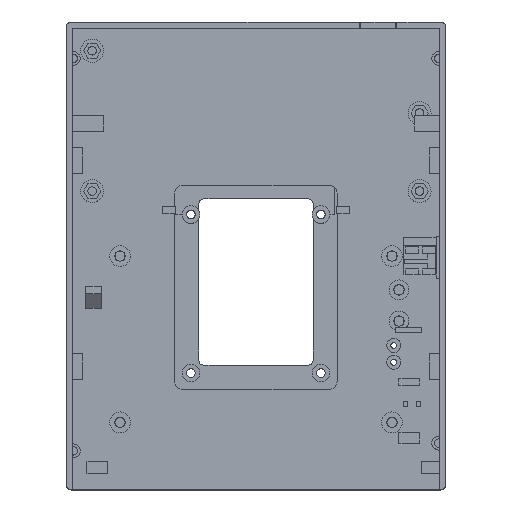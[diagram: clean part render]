
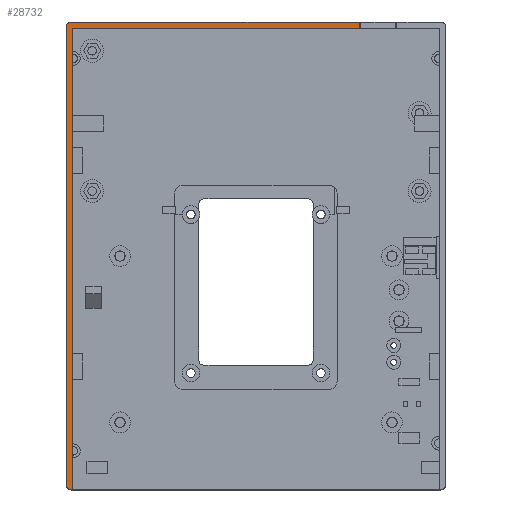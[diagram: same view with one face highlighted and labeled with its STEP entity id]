
A CAD part, top view. The second image highlights one B-rep face of the part: STEP entity #28732.
In plain terms, the highlighted planar face has unit normal (0, 0, 1).
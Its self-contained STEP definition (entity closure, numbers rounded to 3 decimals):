
#32 = PLANE('',#33);
#33 = AXIS2_PLACEMENT_3D('',#34,#35,#36);
#34 = CARTESIAN_POINT('',(2.,0.,0.));
#35 = DIRECTION('',(0.,1.,0.));
#36 = DIRECTION('',(1.,0.,0.));
#57 = VERTEX_POINT('',#58);
#58 = CARTESIAN_POINT('',(2.,0.,38.5));
#72 = CYLINDRICAL_SURFACE('',#73,2.);
#73 = AXIS2_PLACEMENT_3D('',#74,#75,#76);
#74 = CARTESIAN_POINT('',(2.,2.,0.));
#75 = DIRECTION('',(-0.,-0.,-1.));
#76 = DIRECTION('',(-1.,0.,0.));
#84 = EDGE_CURVE('',#57,#85,#87,.T.);
#85 = VERTEX_POINT('',#86);
#86 = CARTESIAN_POINT('',(2.4,0.,38.5));
#87 = SURFACE_CURVE('',#88,(#92,#99),.PCURVE_S1.);
#88 = LINE('',#89,#90);
#89 = CARTESIAN_POINT('',(2.,0.,38.5));
#90 = VECTOR('',#91,1.);
#91 = DIRECTION('',(1.,0.,0.));
#92 = PCURVE('',#32,#93);
#93 = DEFINITIONAL_REPRESENTATION('',(#94),#98);
#94 = LINE('',#95,#96);
#95 = CARTESIAN_POINT('',(0.,-38.5));
#96 = VECTOR('',#97,1.);
#97 = DIRECTION('',(1.,0.));
#98 = ( GEOMETRIC_REPRESENTATION_CONTEXT(2) 
PARAMETRIC_REPRESENTATION_CONTEXT() REPRESENTATION_CONTEXT('2D SPACE',''
  ) );
#99 = PCURVE('',#100,#105);
#100 = PLANE('',#101);
#101 = AXIS2_PLACEMENT_3D('',#102,#103,#104);
#102 = CARTESIAN_POINT('',(73.025,90.,38.5));
#103 = DIRECTION('',(0.,0.,1.));
#104 = DIRECTION('',(1.,0.,-0.));
#105 = DEFINITIONAL_REPRESENTATION('',(#106),#110);
#106 = LINE('',#107,#108);
#107 = CARTESIAN_POINT('',(-71.025,-90.));
#108 = VECTOR('',#109,1.);
#109 = DIRECTION('',(1.,0.));
#110 = ( GEOMETRIC_REPRESENTATION_CONTEXT(2) 
PARAMETRIC_REPRESENTATION_CONTEXT() REPRESENTATION_CONTEXT('2D SPACE',''
  ) );
#128 = PLANE('',#129);
#129 = AXIS2_PLACEMENT_3D('',#130,#131,#132);
#130 = CARTESIAN_POINT('',(2.4,-1.,2.4));
#131 = DIRECTION('',(1.,0.,0.));
#132 = DIRECTION('',(0.,0.,1.));
#619 = PLANE('',#620);
#620 = AXIS2_PLACEMENT_3D('',#621,#622,#623);
#621 = CARTESIAN_POINT('',(144.05,180.,0.));
#622 = DIRECTION('',(0.,-1.,0.));
#623 = DIRECTION('',(-1.,0.,0.));
#823 = VERTEX_POINT('',#824);
#824 = CARTESIAN_POINT('',(112.8,180.,38.5));
#837 = PLANE('',#838);
#838 = AXIS2_PLACEMENT_3D('',#839,#840,#841);
#839 = CARTESIAN_POINT('',(112.8,177.,23.8));
#840 = DIRECTION('',(1.,0.,0.));
#841 = DIRECTION('',(0.,0.,1.));
#848 = EDGE_CURVE('',#823,#849,#851,.T.);
#849 = VERTEX_POINT('',#850);
#850 = CARTESIAN_POINT('',(2.,180.,38.5));
#851 = SURFACE_CURVE('',#852,(#856,#863),.PCURVE_S1.);
#852 = LINE('',#853,#854);
#853 = CARTESIAN_POINT('',(144.05,180.,38.5));
#854 = VECTOR('',#855,1.);
#855 = DIRECTION('',(-1.,0.,0.));
#856 = PCURVE('',#619,#857);
#857 = DEFINITIONAL_REPRESENTATION('',(#858),#862);
#858 = LINE('',#859,#860);
#859 = CARTESIAN_POINT('',(0.,-38.5));
#860 = VECTOR('',#861,1.);
#861 = DIRECTION('',(1.,0.));
#862 = ( GEOMETRIC_REPRESENTATION_CONTEXT(2) 
PARAMETRIC_REPRESENTATION_CONTEXT() REPRESENTATION_CONTEXT('2D SPACE',''
  ) );
#863 = PCURVE('',#100,#864);
#864 = DEFINITIONAL_REPRESENTATION('',(#865),#869);
#865 = LINE('',#866,#867);
#866 = CARTESIAN_POINT('',(71.025,90.));
#867 = VECTOR('',#868,1.);
#868 = DIRECTION('',(-1.,0.));
#869 = ( GEOMETRIC_REPRESENTATION_CONTEXT(2) 
PARAMETRIC_REPRESENTATION_CONTEXT() REPRESENTATION_CONTEXT('2D SPACE',''
  ) );
#885 = CYLINDRICAL_SURFACE('',#886,2.);
#886 = AXIS2_PLACEMENT_3D('',#887,#888,#889);
#887 = CARTESIAN_POINT('',(2.,178.,0.));
#888 = DIRECTION('',(-0.,-0.,-1.));
#889 = DIRECTION('',(0.,1.,-0.));
#1237 = PLANE('',#1238);
#1238 = AXIS2_PLACEMENT_3D('',#1239,#1240,#1241);
#1239 = CARTESIAN_POINT('',(2.4,177.6,2.4));
#1240 = DIRECTION('',(0.,1.,0.));
#1241 = DIRECTION('',(0.,-0.,1.));
#1328 = VERTEX_POINT('',#1329);
#1329 = CARTESIAN_POINT('',(2.4,177.6,38.5));
#1350 = EDGE_CURVE('',#1351,#1328,#1353,.T.);
#1351 = VERTEX_POINT('',#1352);
#1352 = CARTESIAN_POINT('',(112.8,177.6,38.5));
#1353 = SURFACE_CURVE('',#1354,(#1358,#1365),.PCURVE_S1.);
#1354 = LINE('',#1355,#1356);
#1355 = CARTESIAN_POINT('',(37.713,177.6,38.5));
#1356 = VECTOR('',#1357,1.);
#1357 = DIRECTION('',(-1.,0.,0.));
#1358 = PCURVE('',#1237,#1359);
#1359 = DEFINITIONAL_REPRESENTATION('',(#1360),#1364);
#1360 = LINE('',#1361,#1362);
#1361 = CARTESIAN_POINT('',(36.1,35.313));
#1362 = VECTOR('',#1363,1.);
#1363 = DIRECTION('',(0.,-1.));
#1364 = ( GEOMETRIC_REPRESENTATION_CONTEXT(2) 
PARAMETRIC_REPRESENTATION_CONTEXT() REPRESENTATION_CONTEXT('2D SPACE',''
  ) );
#1365 = PCURVE('',#100,#1366);
#1366 = DEFINITIONAL_REPRESENTATION('',(#1367),#1371);
#1367 = LINE('',#1368,#1369);
#1368 = CARTESIAN_POINT('',(-35.313,87.6));
#1369 = VECTOR('',#1370,1.);
#1370 = DIRECTION('',(-1.,0.));
#1371 = ( GEOMETRIC_REPRESENTATION_CONTEXT(2) 
PARAMETRIC_REPRESENTATION_CONTEXT() REPRESENTATION_CONTEXT('2D SPACE',''
  ) );
#10325 = EDGE_CURVE('',#1351,#823,#10326,.T.);
#10326 = SURFACE_CURVE('',#10327,(#10331,#10337),.PCURVE_S1.);
#10327 = LINE('',#10328,#10329);
#10328 = CARTESIAN_POINT('',(112.8,133.5,38.5));
#10329 = VECTOR('',#10330,1.);
#10330 = DIRECTION('',(0.,1.,0.));
#10331 = PCURVE('',#837,#10332);
#10332 = DEFINITIONAL_REPRESENTATION('',(#10333),#10336);
#10333 = B_SPLINE_CURVE_WITH_KNOTS('',1,(#10334,#10335),.UNSPECIFIED.,
  .F.,.F.,(2,2),(43.5,46.5),.PIECEWISE_BEZIER_KNOTS.);
#10334 = CARTESIAN_POINT('',(14.7,0.));
#10335 = CARTESIAN_POINT('',(14.7,-3.));
#10336 = ( GEOMETRIC_REPRESENTATION_CONTEXT(2) 
PARAMETRIC_REPRESENTATION_CONTEXT() REPRESENTATION_CONTEXT('2D SPACE',''
  ) );
#10337 = PCURVE('',#100,#10338);
#10338 = DEFINITIONAL_REPRESENTATION('',(#10339),#10342);
#10339 = B_SPLINE_CURVE_WITH_KNOTS('',1,(#10340,#10341),.UNSPECIFIED.,
  .F.,.F.,(2,2),(43.5,46.5),.PIECEWISE_BEZIER_KNOTS.);
#10340 = CARTESIAN_POINT('',(39.775,87.));
#10341 = CARTESIAN_POINT('',(39.775,90.));
#10342 = ( GEOMETRIC_REPRESENTATION_CONTEXT(2) 
PARAMETRIC_REPRESENTATION_CONTEXT() REPRESENTATION_CONTEXT('2D SPACE',''
  ) );
#10372 = VERTEX_POINT('',#10373);
#10373 = CARTESIAN_POINT('',(0.,178.,38.5));
#10387 = PLANE('',#10388);
#10388 = AXIS2_PLACEMENT_3D('',#10389,#10390,#10391);
#10389 = CARTESIAN_POINT('',(0.,178.,0.));
#10390 = DIRECTION('',(1.,0.,0.));
#10391 = DIRECTION('',(0.,-1.,0.));
#10399 = EDGE_CURVE('',#849,#10372,#10400,.T.);
#10400 = SURFACE_CURVE('',#10401,(#10406,#10413),.PCURVE_S1.);
#10401 = CIRCLE('',#10402,2.);
#10402 = AXIS2_PLACEMENT_3D('',#10403,#10404,#10405);
#10403 = CARTESIAN_POINT('',(2.,178.,38.5));
#10404 = DIRECTION('',(0.,0.,1.));
#10405 = DIRECTION('',(0.,1.,-0.));
#10406 = PCURVE('',#885,#10407);
#10407 = DEFINITIONAL_REPRESENTATION('',(#10408),#10412);
#10408 = LINE('',#10409,#10410);
#10409 = CARTESIAN_POINT('',(6.283,-38.5));
#10410 = VECTOR('',#10411,1.);
#10411 = DIRECTION('',(-1.,0.));
#10412 = ( GEOMETRIC_REPRESENTATION_CONTEXT(2) 
PARAMETRIC_REPRESENTATION_CONTEXT() REPRESENTATION_CONTEXT('2D SPACE',''
  ) );
#10413 = PCURVE('',#100,#10414);
#10414 = DEFINITIONAL_REPRESENTATION('',(#10415),#10419);
#10415 = CIRCLE('',#10416,2.);
#10416 = AXIS2_PLACEMENT_2D('',#10417,#10418);
#10417 = CARTESIAN_POINT('',(-71.025,88.));
#10418 = DIRECTION('',(0.,1.));
#10419 = ( GEOMETRIC_REPRESENTATION_CONTEXT(2) 
PARAMETRIC_REPRESENTATION_CONTEXT() REPRESENTATION_CONTEXT('2D SPACE',''
  ) );
#10426 = EDGE_CURVE('',#10372,#10427,#10429,.T.);
#10427 = VERTEX_POINT('',#10428);
#10428 = CARTESIAN_POINT('',(0.,2.,38.5));
#10429 = SURFACE_CURVE('',#10430,(#10434,#10441),.PCURVE_S1.);
#10430 = LINE('',#10431,#10432);
#10431 = CARTESIAN_POINT('',(0.,178.,38.5));
#10432 = VECTOR('',#10433,1.);
#10433 = DIRECTION('',(0.,-1.,0.));
#10434 = PCURVE('',#10387,#10435);
#10435 = DEFINITIONAL_REPRESENTATION('',(#10436),#10440);
#10436 = LINE('',#10437,#10438);
#10437 = CARTESIAN_POINT('',(0.,-38.5));
#10438 = VECTOR('',#10439,1.);
#10439 = DIRECTION('',(1.,0.));
#10440 = ( GEOMETRIC_REPRESENTATION_CONTEXT(2) 
PARAMETRIC_REPRESENTATION_CONTEXT() REPRESENTATION_CONTEXT('2D SPACE',''
  ) );
#10441 = PCURVE('',#100,#10442);
#10442 = DEFINITIONAL_REPRESENTATION('',(#10443),#10447);
#10443 = LINE('',#10444,#10445);
#10444 = CARTESIAN_POINT('',(-73.025,88.));
#10445 = VECTOR('',#10446,1.);
#10446 = DIRECTION('',(0.,-1.));
#10447 = ( GEOMETRIC_REPRESENTATION_CONTEXT(2) 
PARAMETRIC_REPRESENTATION_CONTEXT() REPRESENTATION_CONTEXT('2D SPACE',''
  ) );
#26733 = EDGE_CURVE('',#85,#1328,#26734,.T.);
#26734 = SURFACE_CURVE('',#26735,(#26739,#26746),.PCURVE_S1.);
#26735 = LINE('',#26736,#26737);
#26736 = CARTESIAN_POINT('',(2.4,44.5,38.5));
#26737 = VECTOR('',#26738,1.);
#26738 = DIRECTION('',(0.,1.,0.));
#26739 = PCURVE('',#128,#26740);
#26740 = DEFINITIONAL_REPRESENTATION('',(#26741),#26745);
#26741 = LINE('',#26742,#26743);
#26742 = CARTESIAN_POINT('',(36.1,-45.5));
#26743 = VECTOR('',#26744,1.);
#26744 = DIRECTION('',(0.,-1.));
#26745 = ( GEOMETRIC_REPRESENTATION_CONTEXT(2) 
PARAMETRIC_REPRESENTATION_CONTEXT() REPRESENTATION_CONTEXT('2D SPACE',''
  ) );
#26746 = PCURVE('',#100,#26747);
#26747 = DEFINITIONAL_REPRESENTATION('',(#26748),#26752);
#26748 = LINE('',#26749,#26750);
#26749 = CARTESIAN_POINT('',(-70.625,-45.5));
#26750 = VECTOR('',#26751,1.);
#26751 = DIRECTION('',(0.,1.));
#26752 = ( GEOMETRIC_REPRESENTATION_CONTEXT(2) 
PARAMETRIC_REPRESENTATION_CONTEXT() REPRESENTATION_CONTEXT('2D SPACE',''
  ) );
#28732 = ADVANCED_FACE('',(#28733),#100,.T.);
#28733 = FACE_BOUND('',#28734,.T.);
#28734 = EDGE_LOOP('',(#28735,#28736,#28758,#28759,#28760,#28761,#28762,
    #28763));
#28735 = ORIENTED_EDGE('',*,*,#10426,.T.);
#28736 = ORIENTED_EDGE('',*,*,#28737,.T.);
#28737 = EDGE_CURVE('',#10427,#57,#28738,.T.);
#28738 = SURFACE_CURVE('',#28739,(#28744,#28751),.PCURVE_S1.);
#28739 = CIRCLE('',#28740,2.);
#28740 = AXIS2_PLACEMENT_3D('',#28741,#28742,#28743);
#28741 = CARTESIAN_POINT('',(2.,2.,38.5));
#28742 = DIRECTION('',(0.,0.,1.));
#28743 = DIRECTION('',(-1.,0.,0.));
#28744 = PCURVE('',#100,#28745);
#28745 = DEFINITIONAL_REPRESENTATION('',(#28746),#28750);
#28746 = CIRCLE('',#28747,2.);
#28747 = AXIS2_PLACEMENT_2D('',#28748,#28749);
#28748 = CARTESIAN_POINT('',(-71.025,-88.));
#28749 = DIRECTION('',(-1.,0.));
#28750 = ( GEOMETRIC_REPRESENTATION_CONTEXT(2) 
PARAMETRIC_REPRESENTATION_CONTEXT() REPRESENTATION_CONTEXT('2D SPACE',''
  ) );
#28751 = PCURVE('',#72,#28752);
#28752 = DEFINITIONAL_REPRESENTATION('',(#28753),#28757);
#28753 = LINE('',#28754,#28755);
#28754 = CARTESIAN_POINT('',(6.283,-38.5));
#28755 = VECTOR('',#28756,1.);
#28756 = DIRECTION('',(-1.,0.));
#28757 = ( GEOMETRIC_REPRESENTATION_CONTEXT(2) 
PARAMETRIC_REPRESENTATION_CONTEXT() REPRESENTATION_CONTEXT('2D SPACE',''
  ) );
#28758 = ORIENTED_EDGE('',*,*,#84,.T.);
#28759 = ORIENTED_EDGE('',*,*,#26733,.T.);
#28760 = ORIENTED_EDGE('',*,*,#1350,.F.);
#28761 = ORIENTED_EDGE('',*,*,#10325,.T.);
#28762 = ORIENTED_EDGE('',*,*,#848,.T.);
#28763 = ORIENTED_EDGE('',*,*,#10399,.T.);
